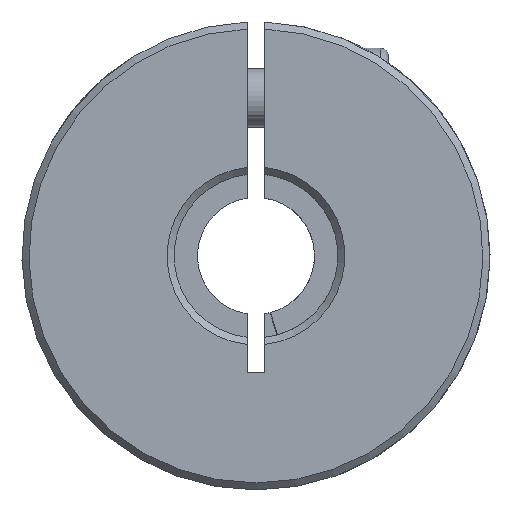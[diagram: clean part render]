
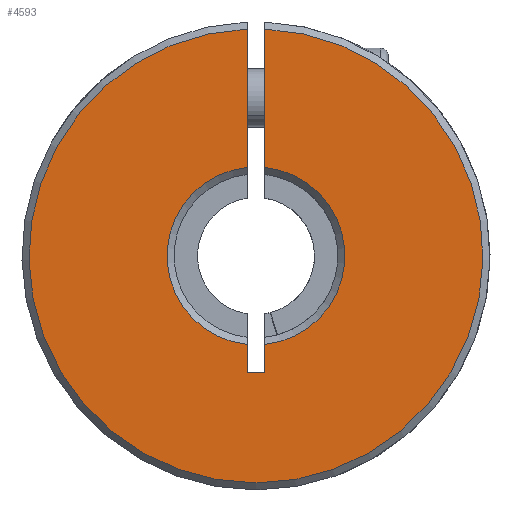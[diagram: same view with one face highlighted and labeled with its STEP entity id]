
A CAD part, front view. The second image highlights one B-rep face of the part: STEP entity #4593.
In plain terms, the highlighted planar face has unit normal (0, -1, 0).
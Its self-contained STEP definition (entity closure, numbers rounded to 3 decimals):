
#49 = DIRECTION ( 'NONE',  ( 0., 1., 0. ) ) ;
#141 = VERTEX_POINT ( 'NONE', #1475 ) ;
#169 = CIRCLE ( 'NONE', #3572, 7.6 ) ;
#268 = AXIS2_PLACEMENT_3D ( 'NONE', #1472, #404, #3653 ) ;
#317 = ORIENTED_EDGE ( 'NONE', *, *, #363, .T. ) ;
#326 = CARTESIAN_POINT ( 'NONE',  ( -0.75, -25., -10. ) ) ;
#349 = CARTESIAN_POINT ( 'NONE',  ( -0.75, -25., -10. ) ) ;
#363 = EDGE_CURVE ( 'NONE', #2027, #5783, #4988, .T. ) ;
#404 = DIRECTION ( 'NONE',  ( 0., -1., 0. ) ) ;
#506 = VECTOR ( 'NONE', #4957, 1000. ) ;
#570 = LINE ( 'NONE', #2418, #5207 ) ;
#679 = ORIENTED_EDGE ( 'NONE', *, *, #5774, .T. ) ;
#943 = CARTESIAN_POINT ( 'NONE',  ( 0., -25., 0. ) ) ;
#1053 = VECTOR ( 'NONE', #4170, 1000. ) ;
#1268 = EDGE_CURVE ( 'NONE', #3708, #141, #3710, .T. ) ;
#1457 = ORIENTED_EDGE ( 'NONE', *, *, #1268, .T. ) ;
#1472 = CARTESIAN_POINT ( 'NONE',  ( 0., -25., 0. ) ) ;
#1475 = CARTESIAN_POINT ( 'NONE',  ( 0.75, -25., -10. ) ) ;
#1530 = CIRCLE ( 'NONE', #5343, 7.6 ) ;
#1800 = EDGE_CURVE ( 'NONE', #5818, #2665, #570, .T. ) ;
#1900 = DIRECTION ( 'NONE',  ( 0., 1., 0. ) ) ;
#1918 = AXIS2_PLACEMENT_3D ( 'NONE', #3244, #49, #2308 ) ;
#1993 = CARTESIAN_POINT ( 'NONE',  ( -0.75, -25., 7.563 ) ) ;
#2027 = VERTEX_POINT ( 'NONE', #349 ) ;
#2039 = VERTEX_POINT ( 'NONE', #3605 ) ;
#2198 = ORIENTED_EDGE ( 'NONE', *, *, #1800, .T. ) ;
#2308 = DIRECTION ( 'NONE',  ( 0., 0., 1. ) ) ;
#2315 = CARTESIAN_POINT ( 'NONE',  ( 0.75, -25., -10. ) ) ;
#2350 = CARTESIAN_POINT ( 'NONE',  ( 0.75, -25., -10. ) ) ;
#2418 = CARTESIAN_POINT ( 'NONE',  ( -0.75, -25., -10. ) ) ;
#2577 = VECTOR ( 'NONE', #5859, 1000. ) ;
#2620 = EDGE_CURVE ( 'NONE', #141, #2027, #5739, .T. ) ;
#2665 = VERTEX_POINT ( 'NONE', #5369 ) ;
#2701 = CIRCLE ( 'NONE', #268, 19.4 ) ;
#2813 = EDGE_CURVE ( 'NONE', #2039, #4233, #4659, .T. ) ;
#2948 = CARTESIAN_POINT ( 'NONE',  ( -0.75, -25., -10. ) ) ;
#3064 = ORIENTED_EDGE ( 'NONE', *, *, #2813, .T. ) ;
#3237 = DIRECTION ( 'NONE',  ( 0., 0., 1. ) ) ;
#3244 = CARTESIAN_POINT ( 'NONE',  ( 0., -25., 0. ) ) ;
#3572 = AXIS2_PLACEMENT_3D ( 'NONE', #943, #1900, #3761 ) ;
#3605 = CARTESIAN_POINT ( 'NONE',  ( 0.75, -25., 19.385 ) ) ;
#3653 = DIRECTION ( 'NONE',  ( 0., 0., 1. ) ) ;
#3708 = VERTEX_POINT ( 'NONE', #5228 ) ;
#3710 = LINE ( 'NONE', #2315, #1053 ) ;
#3761 = DIRECTION ( 'NONE',  ( 0., 0., 1. ) ) ;
#3775 = DIRECTION ( 'NONE',  ( 0., 0., -1. ) ) ;
#4170 = DIRECTION ( 'NONE',  ( 0., 0., -1. ) ) ;
#4192 = FACE_OUTER_BOUND ( 'NONE', #5682, .T. ) ;
#4216 = PLANE ( 'NONE',  #1918 ) ;
#4233 = VERTEX_POINT ( 'NONE', #4709 ) ;
#4593 = ADVANCED_FACE ( 'NONE', ( #4192 ), #4216, .F. ) ;
#4602 = EDGE_CURVE ( 'NONE', #5783, #5818, #169, .T. ) ;
#4621 = VECTOR ( 'NONE', #3775, 1000. ) ;
#4642 = CARTESIAN_POINT ( 'NONE',  ( 0., -25., 0. ) ) ;
#4659 = LINE ( 'NONE', #2350, #4621 ) ;
#4709 = CARTESIAN_POINT ( 'NONE',  ( 0.75, -25., 7.563 ) ) ;
#4734 = CARTESIAN_POINT ( 'NONE',  ( -0.75, -25., -7.563 ) ) ;
#4818 = ORIENTED_EDGE ( 'NONE', *, *, #4975, .T. ) ;
#4957 = DIRECTION ( 'NONE',  ( 0., 0., 1. ) ) ;
#4975 = EDGE_CURVE ( 'NONE', #4233, #3708, #1530, .T. ) ;
#4988 = LINE ( 'NONE', #326, #506 ) ;
#5001 = ORIENTED_EDGE ( 'NONE', *, *, #2620, .T. ) ;
#5165 = ORIENTED_EDGE ( 'NONE', *, *, #4602, .T. ) ;
#5207 = VECTOR ( 'NONE', #5873, 1000. ) ;
#5228 = CARTESIAN_POINT ( 'NONE',  ( 0.75, -25., -7.563 ) ) ;
#5343 = AXIS2_PLACEMENT_3D ( 'NONE', #4642, #5621, #3237 ) ;
#5369 = CARTESIAN_POINT ( 'NONE',  ( -0.75, -25., 19.385 ) ) ;
#5621 = DIRECTION ( 'NONE',  ( 0., 1., 0. ) ) ;
#5682 = EDGE_LOOP ( 'NONE', ( #3064, #4818, #1457, #5001, #317, #5165, #2198, #679 ) ) ;
#5739 = LINE ( 'NONE', #2948, #2577 ) ;
#5774 = EDGE_CURVE ( 'NONE', #2665, #2039, #2701, .T. ) ;
#5783 = VERTEX_POINT ( 'NONE', #4734 ) ;
#5818 = VERTEX_POINT ( 'NONE', #1993 ) ;
#5859 = DIRECTION ( 'NONE',  ( -1., 0., 0. ) ) ;
#5873 = DIRECTION ( 'NONE',  ( 0., 0., 1. ) ) ;
